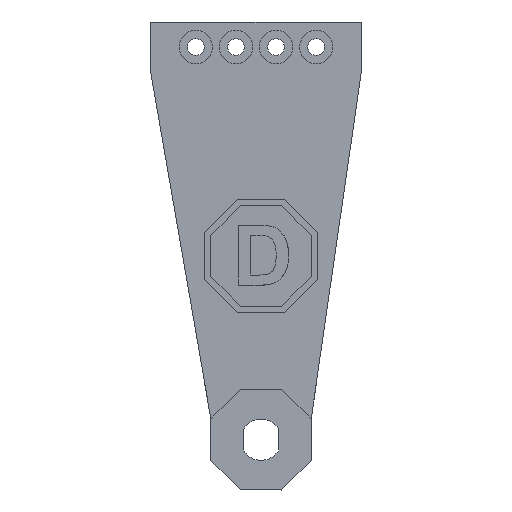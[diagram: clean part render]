
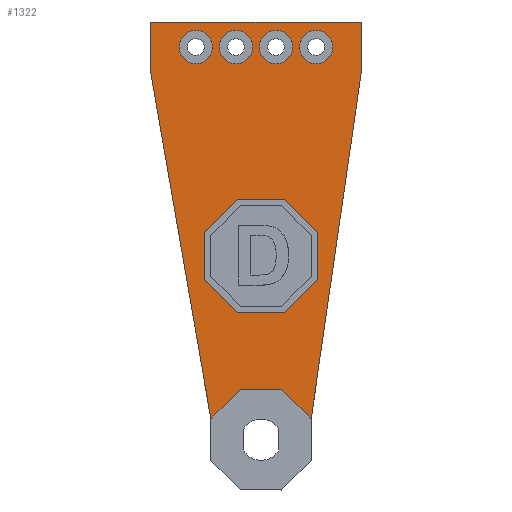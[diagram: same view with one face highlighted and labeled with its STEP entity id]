
A CAD part, top view. The second image highlights one B-rep face of the part: STEP entity #1322.
In plain terms, the highlighted planar face has unit normal (0, 0, 1).
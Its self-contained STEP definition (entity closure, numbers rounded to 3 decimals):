
#68=FACE_BOUND('',#234,.T.);
#69=FACE_BOUND('',#235,.T.);
#70=FACE_BOUND('',#236,.T.);
#71=FACE_BOUND('',#237,.T.);
#72=FACE_BOUND('',#238,.T.);
#102=PLANE('',#1422);
#154=FACE_OUTER_BOUND('',#233,.T.);
#233=EDGE_LOOP('',(#1011,#1012,#1013,#1014,#1015,#1016,#1017,#1018));
#234=EDGE_LOOP('',(#1019));
#235=EDGE_LOOP('',(#1020));
#236=EDGE_LOOP('',(#1021));
#237=EDGE_LOOP('',(#1022));
#238=EDGE_LOOP('',(#1023,#1024,#1025,#1026,#1027,#1028,#1029,#1030));
#323=LINE('',#1847,#461);
#327=LINE('',#1855,#465);
#330=LINE('',#1861,#468);
#333=LINE('',#1867,#471);
#336=LINE('',#1873,#474);
#339=LINE('',#1879,#477);
#342=LINE('',#1885,#480);
#345=LINE('',#1890,#483);
#347=LINE('',#1896,#485);
#348=LINE('',#1898,#486);
#349=LINE('',#1900,#487);
#350=LINE('',#1902,#488);
#351=LINE('',#1904,#489);
#352=LINE('',#1906,#490);
#353=LINE('',#1908,#491);
#354=LINE('',#1909,#492);
#461=VECTOR('',#1551,10.);
#465=VECTOR('',#1557,10.);
#468=VECTOR('',#1562,10.);
#471=VECTOR('',#1567,10.);
#474=VECTOR('',#1572,10.);
#477=VECTOR('',#1577,10.);
#480=VECTOR('',#1582,10.);
#483=VECTOR('',#1587,10.);
#485=VECTOR('',#1593,10.);
#486=VECTOR('',#1594,10.);
#487=VECTOR('',#1595,10.);
#488=VECTOR('',#1596,10.);
#489=VECTOR('',#1597,10.);
#490=VECTOR('',#1598,10.);
#491=VECTOR('',#1599,10.);
#492=VECTOR('',#1600,10.);
#571=CIRCLE('',#1386,5.);
#574=CIRCLE('',#1391,5.);
#577=CIRCLE('',#1396,5.);
#580=CIRCLE('',#1401,5.);
#591=VERTEX_POINT('',#1761);
#594=VERTEX_POINT('',#1770);
#597=VERTEX_POINT('',#1779);
#600=VERTEX_POINT('',#1788);
#619=VERTEX_POINT('',#1845);
#620=VERTEX_POINT('',#1846);
#623=VERTEX_POINT('',#1854);
#625=VERTEX_POINT('',#1860);
#627=VERTEX_POINT('',#1866);
#629=VERTEX_POINT('',#1872);
#631=VERTEX_POINT('',#1878);
#633=VERTEX_POINT('',#1884);
#635=VERTEX_POINT('',#1894);
#636=VERTEX_POINT('',#1895);
#637=VERTEX_POINT('',#1897);
#638=VERTEX_POINT('',#1899);
#639=VERTEX_POINT('',#1901);
#640=VERTEX_POINT('',#1903);
#641=VERTEX_POINT('',#1905);
#642=VERTEX_POINT('',#1907);
#717=EDGE_CURVE('',#591,#591,#571,.T.);
#721=EDGE_CURVE('',#594,#594,#574,.T.);
#725=EDGE_CURVE('',#597,#597,#577,.T.);
#729=EDGE_CURVE('',#600,#600,#580,.T.);
#757=EDGE_CURVE('',#619,#620,#323,.T.);
#761=EDGE_CURVE('',#620,#623,#327,.T.);
#764=EDGE_CURVE('',#623,#625,#330,.T.);
#767=EDGE_CURVE('',#625,#627,#333,.T.);
#770=EDGE_CURVE('',#627,#629,#336,.T.);
#773=EDGE_CURVE('',#629,#631,#339,.T.);
#776=EDGE_CURVE('',#631,#633,#342,.T.);
#779=EDGE_CURVE('',#633,#619,#345,.T.);
#781=EDGE_CURVE('',#635,#636,#347,.T.);
#782=EDGE_CURVE('',#637,#635,#348,.T.);
#783=EDGE_CURVE('',#638,#637,#349,.T.);
#784=EDGE_CURVE('',#639,#638,#350,.T.);
#785=EDGE_CURVE('',#640,#639,#351,.T.);
#786=EDGE_CURVE('',#641,#640,#352,.T.);
#787=EDGE_CURVE('',#642,#641,#353,.T.);
#788=EDGE_CURVE('',#636,#642,#354,.T.);
#1011=ORIENTED_EDGE('',*,*,#781,.F.);
#1012=ORIENTED_EDGE('',*,*,#782,.F.);
#1013=ORIENTED_EDGE('',*,*,#783,.F.);
#1014=ORIENTED_EDGE('',*,*,#784,.F.);
#1015=ORIENTED_EDGE('',*,*,#785,.F.);
#1016=ORIENTED_EDGE('',*,*,#786,.F.);
#1017=ORIENTED_EDGE('',*,*,#787,.F.);
#1018=ORIENTED_EDGE('',*,*,#788,.F.);
#1019=ORIENTED_EDGE('',*,*,#717,.T.);
#1020=ORIENTED_EDGE('',*,*,#721,.T.);
#1021=ORIENTED_EDGE('',*,*,#725,.T.);
#1022=ORIENTED_EDGE('',*,*,#729,.T.);
#1023=ORIENTED_EDGE('',*,*,#757,.T.);
#1024=ORIENTED_EDGE('',*,*,#761,.T.);
#1025=ORIENTED_EDGE('',*,*,#764,.T.);
#1026=ORIENTED_EDGE('',*,*,#767,.T.);
#1027=ORIENTED_EDGE('',*,*,#770,.T.);
#1028=ORIENTED_EDGE('',*,*,#773,.T.);
#1029=ORIENTED_EDGE('',*,*,#776,.T.);
#1030=ORIENTED_EDGE('',*,*,#779,.T.);
#1322=ADVANCED_FACE('',(#154,#68,#69,#70,#71,#72),#102,.T.);
#1386=AXIS2_PLACEMENT_3D('',#1762,#1467,#1468);
#1391=AXIS2_PLACEMENT_3D('',#1771,#1478,#1479);
#1396=AXIS2_PLACEMENT_3D('',#1780,#1489,#1490);
#1401=AXIS2_PLACEMENT_3D('',#1789,#1500,#1501);
#1422=AXIS2_PLACEMENT_3D('',#1893,#1591,#1592);
#1467=DIRECTION('center_axis',(0.,0.,-1.));
#1468=DIRECTION('ref_axis',(1.,0.,0.));
#1478=DIRECTION('center_axis',(0.,0.,-1.));
#1479=DIRECTION('ref_axis',(1.,0.,0.));
#1489=DIRECTION('center_axis',(0.,0.,-1.));
#1490=DIRECTION('ref_axis',(1.,0.,0.));
#1500=DIRECTION('center_axis',(0.,0.,-1.));
#1501=DIRECTION('ref_axis',(1.,0.,0.));
#1551=DIRECTION('',(0.707,0.707,0.));
#1557=DIRECTION('',(1.,0.,0.));
#1562=DIRECTION('',(0.707,-0.707,0.));
#1567=DIRECTION('',(0.,-1.,0.));
#1572=DIRECTION('',(-0.707,-0.707,0.));
#1577=DIRECTION('',(-1.,0.,0.));
#1582=DIRECTION('',(-0.707,0.707,0.));
#1587=DIRECTION('',(0.,1.,0.));
#1591=DIRECTION('center_axis',(0.,0.,1.));
#1592=DIRECTION('ref_axis',(1.,0.,0.));
#1593=DIRECTION('',(0.,-1.,0.));
#1594=DIRECTION('',(1.,0.,0.));
#1595=DIRECTION('',(0.,1.,0.));
#1596=DIRECTION('',(-0.171,0.985,0.));
#1597=DIRECTION('',(-0.707,-0.707,0.));
#1598=DIRECTION('',(-1.,0.,0.));
#1599=DIRECTION('',(-0.707,0.707,0.));
#1600=DIRECTION('',(-0.143,-0.99,0.));
#1761=CARTESIAN_POINT('',(-12.5,117.5,8.));
#1762=CARTESIAN_POINT('Origin',(-7.5,117.5,8.));
#1770=CARTESIAN_POINT('',(-0.5,117.5,8.));
#1771=CARTESIAN_POINT('Origin',(4.5,117.5,8.));
#1779=CARTESIAN_POINT('',(-24.5,117.5,8.));
#1780=CARTESIAN_POINT('Origin',(-19.5,117.5,8.));
#1788=CARTESIAN_POINT('',(11.5,117.5,8.));
#1789=CARTESIAN_POINT('Origin',(16.5,117.5,8.));
#1845=CARTESIAN_POINT('',(-17.,62.042,8.));
#1846=CARTESIAN_POINT('',(-7.042,72.,8.));
#1847=CARTESIAN_POINT('',(-7.255,71.787,8.));
#1854=CARTESIAN_POINT('',(7.042,72.,8.));
#1855=CARTESIAN_POINT('',(2.771,72.,8.));
#1860=CARTESIAN_POINT('',(17.,62.042,8.));
#1861=CARTESIAN_POINT('',(11.484,67.558,8.));
#1866=CARTESIAN_POINT('',(17.,47.958,8.));
#1867=CARTESIAN_POINT('',(17.,56.782,8.));
#1872=CARTESIAN_POINT('',(7.042,38.,8.));
#1873=CARTESIAN_POINT('',(11.808,42.766,8.));
#1878=CARTESIAN_POINT('',(-7.042,38.,8.));
#1879=CARTESIAN_POINT('',(-4.271,38.,8.));
#1884=CARTESIAN_POINT('',(-17.,47.958,8.));
#1885=CARTESIAN_POINT('',(-17.537,48.495,8.));
#1890=CARTESIAN_POINT('',(-17.,63.824,8.));
#1893=CARTESIAN_POINT('Origin',(-1.5,65.607,8.));
#1894=CARTESIAN_POINT('',(30.,125.,8.));
#1895=CARTESIAN_POINT('',(30.,110.,8.));
#1896=CARTESIAN_POINT('',(30.,87.803,8.));
#1897=CARTESIAN_POINT('',(-33.,125.,8.));
#1898=CARTESIAN_POINT('',(14.25,125.,8.));
#1899=CARTESIAN_POINT('',(-33.,110.,8.));
#1900=CARTESIAN_POINT('',(-33.,95.303,8.));
#1901=CARTESIAN_POINT('',(-15.,6.213,8.));
#1902=CARTESIAN_POINT('',(-28.803,85.8,8.));
#1903=CARTESIAN_POINT('',(-6.213,15.,8.));
#1904=CARTESIAN_POINT('',(-6.213,15.,8.));
#1905=CARTESIAN_POINT('',(6.213,15.,8.));
#1906=CARTESIAN_POINT('',(6.213,15.,8.));
#1907=CARTESIAN_POINT('',(15.,6.213,8.));
#1908=CARTESIAN_POINT('',(15.,6.213,8.));
#1909=CARTESIAN_POINT('',(19.035,34.134,8.));
